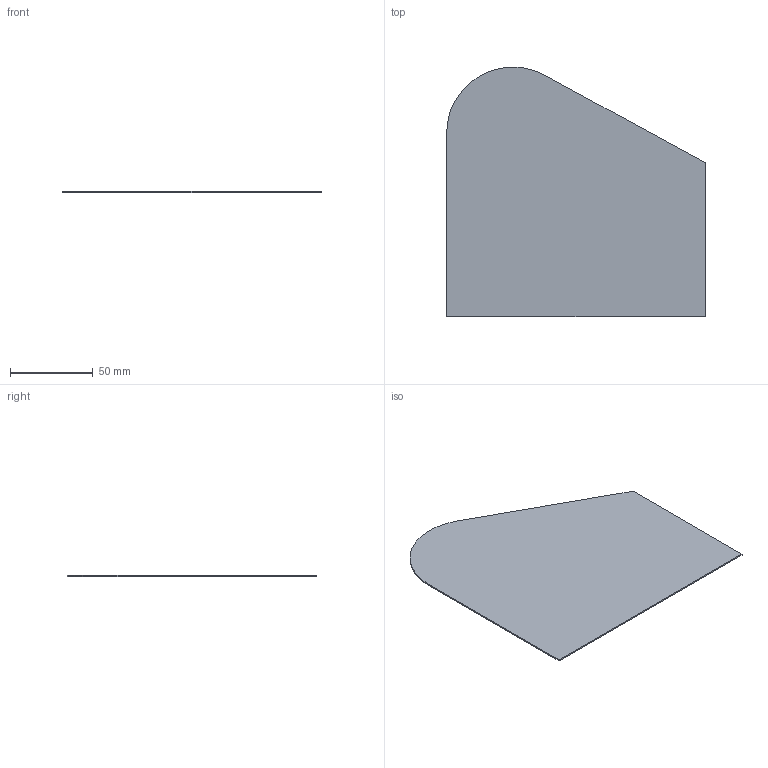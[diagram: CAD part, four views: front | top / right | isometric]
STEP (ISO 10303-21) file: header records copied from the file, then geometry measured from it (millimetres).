
FILE_DESCRIPTION(('STEP AP203'), '1');
FILE_NAME('ìàñêà äåêè çàä 2', '', ('UNSPECIFIED'), ('UNSPECIFIED'), 'ASCON STEP Converter 1.3', 'ASCON Math Kernel', '');
FILE_SCHEMA(('CONFIG_CONTROL_DESIGN'));
Length unit declared in the file: millimetre
Bounding box: 155.98 x 150.61 x 0.8 mm (x, y, z)
Volume: 16070.1 mm3; surface area: 40617.3 mm2
Topology: 1 solids, 1 shells, 7 faces, 15 edges, 10 vertices
Faces by surface type: plane 6, cylinder 1
Entity records: 291 total; most frequent: CARTESIAN_POINT 33, DIRECTION 33, ORIENTED_EDGE 30, EDGE_CURVE 15, LINE 13, VECTOR 13, AXIS2_PLACEMENT_3D 10, VERTEX_POINT 10
